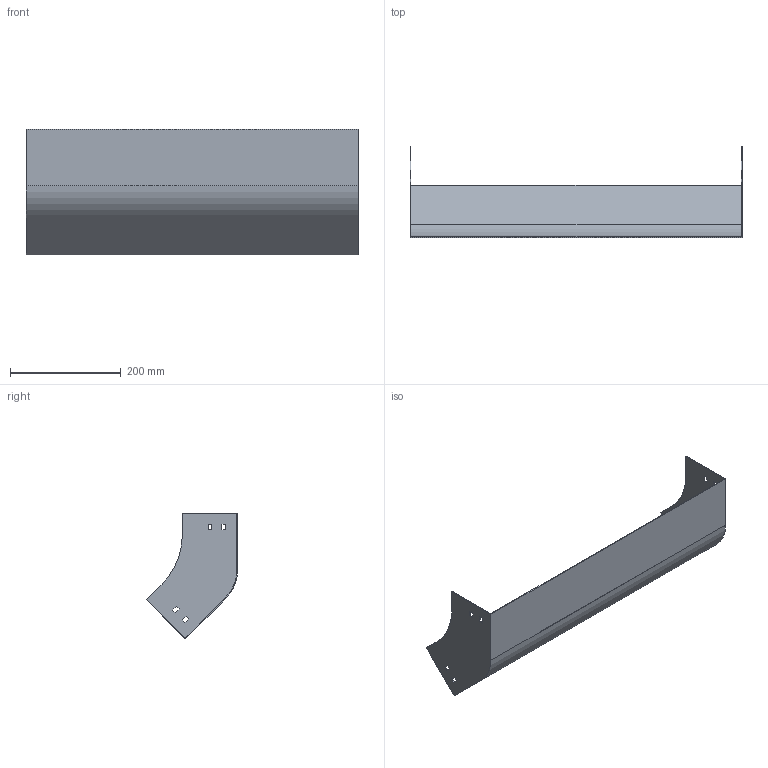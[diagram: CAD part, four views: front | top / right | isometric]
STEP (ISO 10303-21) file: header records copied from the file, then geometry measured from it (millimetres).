
FILE_DESCRIPTION (( 'STEP AP214' ), '1' );
FILE_NAME ('S4_601.step', '2025-07-16T09:27:18', ( '' ), ( '' ), 'SwSTEP 2.0', 'SolidWorks 2023', '' );
FILE_SCHEMA (( 'AUTOMOTIVE_DESIGN' ));
Length unit declared in the file: millimetre
Products named in the file (1): S4_601
Bounding box: 600 x 164.9 x 227.38 mm (x, y, z)
Volume: 302438.1 mm3; surface area: 406586.1 mm2
Topology: 1 solids, 1 shells, 50 faces, 144 edges, 96 vertices
Faces by surface type: plane 46, cylinder 4
Entity records: 1671 total; most frequent: CARTESIAN_POINT 291, ORIENTED_EDGE 288, DIRECTION 254, EDGE_CURVE 144, VECTOR 136, LINE 136, VERTEX_POINT 96, EDGE_LOOP 66
